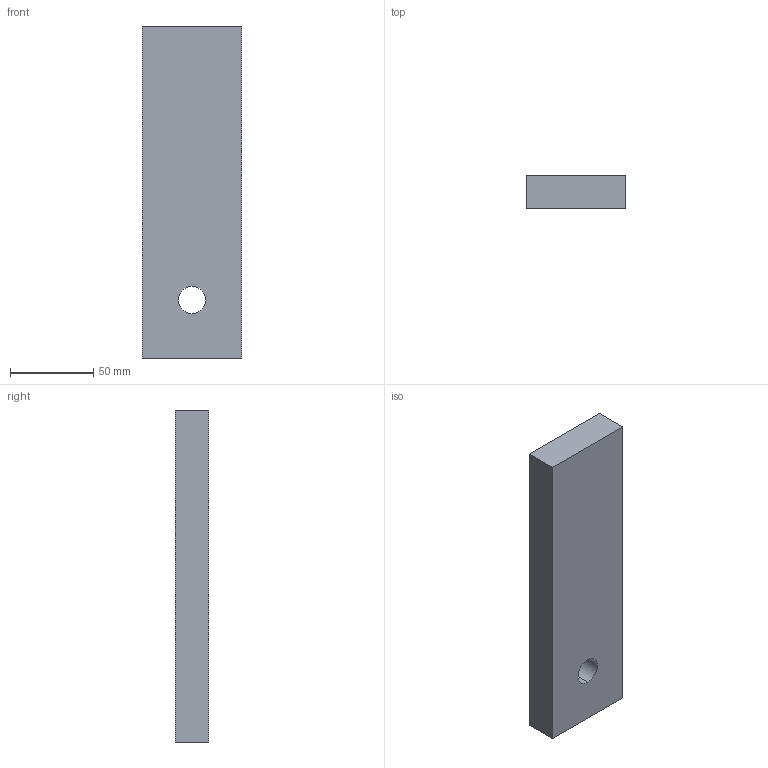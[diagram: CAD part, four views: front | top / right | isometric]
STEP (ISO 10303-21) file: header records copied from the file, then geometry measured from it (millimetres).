
FILE_DESCRIPTION (( 'STEP AP203' ), '1' );
FILE_NAME ('Druckplatte_110415.STEP', '2021-03-16T06:21:56', ( '' ), ( '' ), 'SwSTEP 2.0', 'SolidWorks 2013', '' );
FILE_SCHEMA (( 'CONFIG_CONTROL_DESIGN' ));
Length unit declared in the file: millimetre
Products named in the file (1): Druckplatte_110415
Bounding box: 60 x 20 x 200 mm (x, y, z)
Volume: 235723.5 mm3; surface area: 35009.1 mm2
Topology: 1 solids, 1 shells, 8 faces, 18 edges, 12 vertices
Faces by surface type: plane 6, cylinder 2
Entity records: 309 total; most frequent: DIRECTION 40, CARTESIAN_POINT 39, ORIENTED_EDGE 36, EDGE_CURVE 18, VECTOR 14, LINE 14, AXIS2_PLACEMENT_3D 13, VERTEX_POINT 12
